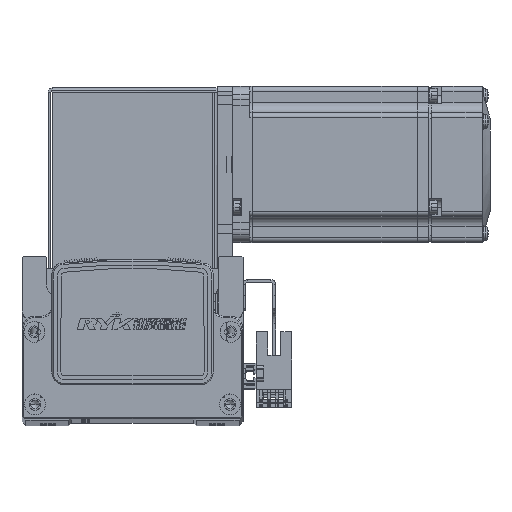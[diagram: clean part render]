
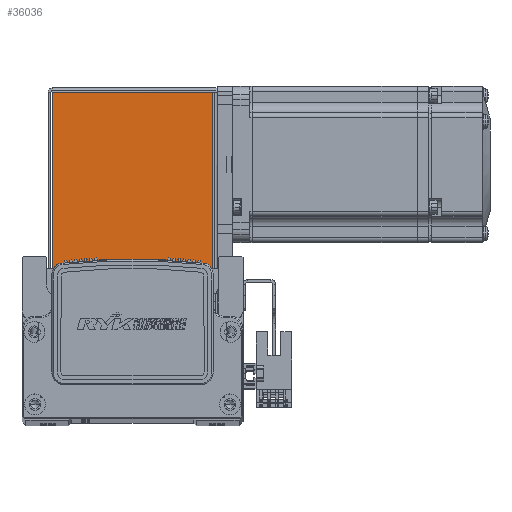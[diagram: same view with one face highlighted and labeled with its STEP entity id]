
A CAD part, top view. The second image highlights one B-rep face of the part: STEP entity #36036.
In plain terms, the highlighted planar face has unit normal (0, 0, 1) as drawn and (0, 0, -1) by its records, which use the part's own axes.
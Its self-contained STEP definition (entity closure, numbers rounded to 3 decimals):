
#13046 = AXIS2_PLACEMENT_3D ( 'NONE', #74732, #74676, #74738 ) ;
#18066 = CARTESIAN_POINT ( 'NONE',  ( 32.5, 0.737, -35. ) ) ;
#18141 = DIRECTION ( 'NONE',  ( 1., 0., 0. ) ) ;
#18146 = CARTESIAN_POINT ( 'NONE',  ( 30.763, 68.5, -35. ) ) ;
#18166 = CARTESIAN_POINT ( 'NONE',  ( -30.793, 0., -35. ) ) ;
#18183 = DIRECTION ( 'NONE',  ( 0., 1., 0. ) ) ;
#18193 = CARTESIAN_POINT ( 'NONE',  ( 0., 68.5, -35. ) ) ;
#18198 = DIRECTION ( 'NONE',  ( 1., 0., 0. ) ) ;
#18241 = DIRECTION ( 'NONE',  ( 0., -1., 0. ) ) ;
#34760 = EDGE_CURVE ( 'NONE', #60279, #60293, #77764, .T. ) ;
#34774 = EDGE_CURVE ( 'NONE', #60279, #60392, #77832, .T. ) ;
#34782 = EDGE_CURVE ( 'NONE', #60392, #60448, #77785, .T. ) ;
#34784 = EDGE_CURVE ( 'NONE', #60448, #60293, #77786, .T. ) ;
#36036 = ADVANCED_FACE ( 'NONE', ( #74844 ), #74672, .F. ) ;
#38865 = ORIENTED_EDGE ( 'NONE', *, *, #34784, .T. ) ;
#38882 = ORIENTED_EDGE ( 'NONE', *, *, #34760, .F. ) ;
#38891 = ORIENTED_EDGE ( 'NONE', *, *, #34774, .T. ) ;
#38949 = ORIENTED_EDGE ( 'NONE', *, *, #34782, .T. ) ;
#44704 = CARTESIAN_POINT ( 'NONE',  ( -30.793, 0.737, -35. ) ) ;
#44766 = CARTESIAN_POINT ( 'NONE',  ( 30.763, 0.737, -35. ) ) ;
#44858 = CARTESIAN_POINT ( 'NONE',  ( -30.793, 68.5, -35. ) ) ;
#44932 = CARTESIAN_POINT ( 'NONE',  ( 30.763, 68.5, -35. ) ) ;
#48742 = EDGE_LOOP ( 'NONE', ( #38865, #38882, #38891, #38949 ) ) ;
#60279 = VERTEX_POINT ( 'NONE', #44704 ) ;
#60293 = VERTEX_POINT ( 'NONE', #44766 ) ;
#60392 = VERTEX_POINT ( 'NONE', #44858 ) ;
#60448 = VERTEX_POINT ( 'NONE', #44932 ) ;
#74672 = PLANE ( 'NONE',  #13046 ) ;
#74676 = DIRECTION ( 'NONE',  ( 0., 0., 1. ) ) ;
#74732 = CARTESIAN_POINT ( 'NONE',  ( 0., 0., -35. ) ) ;
#74738 = DIRECTION ( 'NONE',  ( 0., -1., 0. ) ) ;
#74844 = FACE_OUTER_BOUND ( 'NONE', #48742, .T. ) ;
#77729 = VECTOR ( 'NONE', #18141, 1000. ) ;
#77764 = LINE ( 'NONE', #18066, #77729 ) ;
#77785 = LINE ( 'NONE', #18193, #77809 ) ;
#77786 = LINE ( 'NONE', #18146, #77808 ) ;
#77808 = VECTOR ( 'NONE', #18241, 1000. ) ;
#77809 = VECTOR ( 'NONE', #18198, 1000. ) ;
#77824 = VECTOR ( 'NONE', #18183, 1000. ) ;
#77832 = LINE ( 'NONE', #18166, #77824 ) ;
